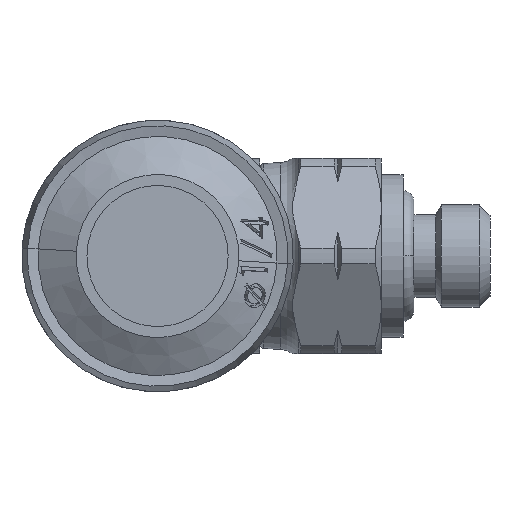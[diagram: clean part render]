
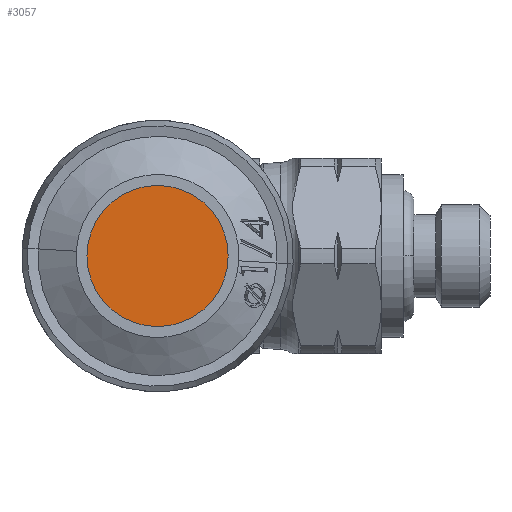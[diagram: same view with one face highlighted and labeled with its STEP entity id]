
A CAD part, left-side view. The second image highlights one B-rep face of the part: STEP entity #3057.
In plain terms, the highlighted planar face has unit normal (-1, 0, 0).
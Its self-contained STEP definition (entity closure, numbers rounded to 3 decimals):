
#242 = CARTESIAN_POINT ( 'NONE',  ( -4., 0., 0. ) ) ;
#400 = DIRECTION ( 'NONE',  ( 0., -1., 0. ) ) ;
#554 = VERTEX_POINT ( 'NONE', #7135 ) ;
#1070 = DIRECTION ( 'NONE',  ( 0., -1., 0. ) ) ;
#1403 = EDGE_CURVE ( 'NONE', #554, #7218, #8186, .T. ) ;
#2473 = EDGE_CURVE ( 'NONE', #7218, #554, #9505, .T. ) ;
#3057 = ADVANCED_FACE ( 'NONE', ( #6789 ), #5139, .T. ) ;
#4338 = DIRECTION ( 'NONE',  ( 0., -1., 0. ) ) ;
#5139 = PLANE ( 'NONE',  #6761 ) ;
#5321 = AXIS2_PLACEMENT_3D ( 'NONE', #10244, #5334, #400 ) ;
#5334 = DIRECTION ( 'NONE',  ( -1., 0., 0. ) ) ;
#5988 = DIRECTION ( 'NONE',  ( -1., 0., 0. ) ) ;
#6424 = ORIENTED_EDGE ( 'NONE', *, *, #1403, .T. ) ;
#6761 = AXIS2_PLACEMENT_3D ( 'NONE', #7612, #9252, #4338 ) ;
#6789 = FACE_OUTER_BOUND ( 'NONE', #10424, .T. ) ;
#7135 = CARTESIAN_POINT ( 'NONE',  ( -4., 3.25, 0. ) ) ;
#7218 = VERTEX_POINT ( 'NONE', #9142 ) ;
#7612 = CARTESIAN_POINT ( 'NONE',  ( -4., 0., 0. ) ) ;
#7774 = ORIENTED_EDGE ( 'NONE', *, *, #2473, .T. ) ;
#8186 = CIRCLE ( 'NONE', #8693, 3.25 ) ;
#8693 = AXIS2_PLACEMENT_3D ( 'NONE', #242, #5988, #1070 ) ;
#9142 = CARTESIAN_POINT ( 'NONE',  ( -4., -3.25, 0. ) ) ;
#9252 = DIRECTION ( 'NONE',  ( -1., 0., 0. ) ) ;
#9505 = CIRCLE ( 'NONE', #5321, 3.25 ) ;
#10244 = CARTESIAN_POINT ( 'NONE',  ( -4., 0., 0. ) ) ;
#10424 = EDGE_LOOP ( 'NONE', ( #7774, #6424 ) ) ;
